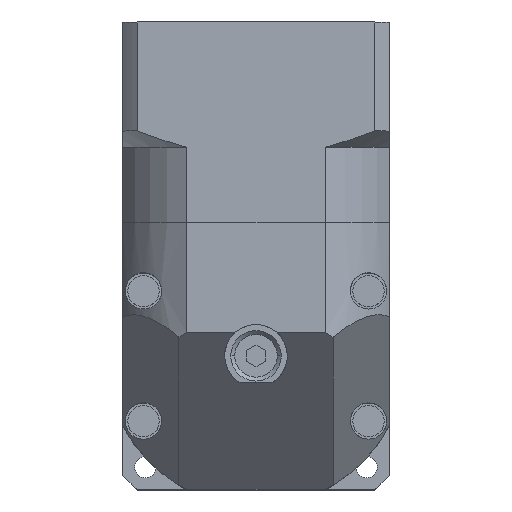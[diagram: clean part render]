
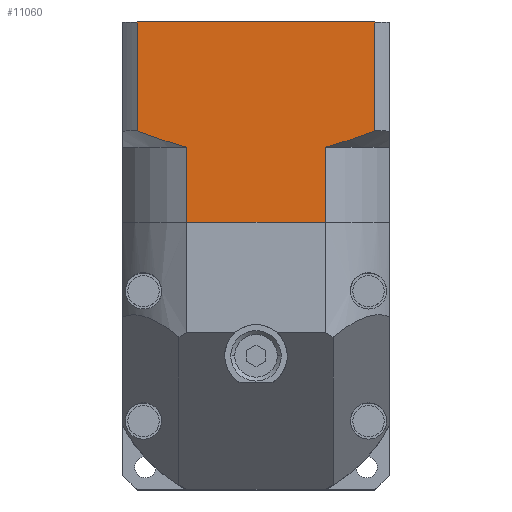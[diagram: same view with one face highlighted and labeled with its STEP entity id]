
A CAD part, top view. The second image highlights one B-rep face of the part: STEP entity #11060.
In plain terms, the highlighted planar face has unit normal (0, 0, 1) as drawn and (0, -1, 0) by its records, which use the part's own axes.
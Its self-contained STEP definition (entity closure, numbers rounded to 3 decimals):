
#34 = B_SPLINE_CURVE_WITH_KNOTS ( 'NONE', 3,
 ( #9931, #10885, #7182, #170 ),
 .UNSPECIFIED., .F., .F.,
 ( 4, 4 ),
 ( 0., 0.008 ),
 .UNSPECIFIED. ) ;
#170 = CARTESIAN_POINT ( 'NONE',  ( 11.059, -21.3, 12. ) ) ;
#273 = VERTEX_POINT ( 'NONE', #9314 ) ;
#278 = CARTESIAN_POINT ( 'NONE',  ( 18.936, -21.3, 32. ) ) ;
#509 = CARTESIAN_POINT ( 'NONE',  ( 18.936, -21.3, 32. ) ) ;
#685 = FACE_OUTER_BOUND ( 'NONE', #3792, .T. ) ;
#1178 = VERTEX_POINT ( 'NONE', #3948 ) ;
#1491 = EDGE_CURVE ( 'NONE', #273, #10501, #7911, .T. ) ;
#1499 = EDGE_CURVE ( 'NONE', #7039, #3910, #34, .T. ) ;
#1550 = ORIENTED_EDGE ( 'NONE', *, *, #1499, .F. ) ;
#1869 = CARTESIAN_POINT ( 'NONE',  ( -18.936, -21.3, 32. ) ) ;
#2223 = CARTESIAN_POINT ( 'NONE',  ( -16.352, -21.3, 13.607 ) ) ;
#2300 = VERTEX_POINT ( 'NONE', #5970 ) ;
#2691 = VERTEX_POINT ( 'NONE', #278 ) ;
#2693 = AXIS2_PLACEMENT_3D ( 'NONE', #6478, #3077, #8347 ) ;
#2824 = CARTESIAN_POINT ( 'NONE',  ( 11.059, -21.3, 0. ) ) ;
#2862 = CARTESIAN_POINT ( 'NONE',  ( -11.059, -21.3, 32. ) ) ;
#3077 = DIRECTION ( 'NONE',  ( 0., 1., 0. ) ) ;
#3644 = LINE ( 'NONE', #8354, #10588 ) ;
#3792 = EDGE_LOOP ( 'NONE', ( #11363, #7958, #9010, #1550, #7639, #9051, #6177, #10185 ) ) ;
#3910 = VERTEX_POINT ( 'NONE', #6954 ) ;
#3948 = CARTESIAN_POINT ( 'NONE',  ( -11.059, -21.3, 12. ) ) ;
#4063 = VECTOR ( 'NONE', #9276, 1000. ) ;
#4313 = LINE ( 'NONE', #6346, #7796 ) ;
#4604 = LINE ( 'NONE', #10152, #4063 ) ;
#4766 = EDGE_CURVE ( 'NONE', #3910, #6720, #4604, .T. ) ;
#5319 = EDGE_CURVE ( 'NONE', #2300, #6720, #3644, .T. ) ;
#5970 = CARTESIAN_POINT ( 'NONE',  ( -11.059, -21.3, 0. ) ) ;
#6177 = ORIENTED_EDGE ( 'NONE', *, *, #1491, .F. ) ;
#6346 = CARTESIAN_POINT ( 'NONE',  ( -18.936, -21.3, 32. ) ) ;
#6368 = VECTOR ( 'NONE', #8070, 1000. ) ;
#6478 = CARTESIAN_POINT ( 'NONE',  ( -18.936, -21.3, 32. ) ) ;
#6663 = DIRECTION ( 'NONE',  ( 0., 0., -1. ) ) ;
#6720 = VERTEX_POINT ( 'NONE', #2824 ) ;
#6954 = CARTESIAN_POINT ( 'NONE',  ( 11.059, -21.3, 12. ) ) ;
#7039 = VERTEX_POINT ( 'NONE', #10467 ) ;
#7091 = EDGE_CURVE ( 'NONE', #2300, #1178, #11399, .T. ) ;
#7182 = CARTESIAN_POINT ( 'NONE',  ( 13.736, -21.3, 12.712 ) ) ;
#7491 = CARTESIAN_POINT ( 'NONE',  ( -11.059, -21.3, 12. ) ) ;
#7528 = CARTESIAN_POINT ( 'NONE',  ( -13.736, -21.3, 12.712 ) ) ;
#7639 = ORIENTED_EDGE ( 'NONE', *, *, #8975, .F. ) ;
#7796 = VECTOR ( 'NONE', #9116, 1000. ) ;
#7911 = LINE ( 'NONE', #1869, #6368 ) ;
#7958 = ORIENTED_EDGE ( 'NONE', *, *, #5319, .T. ) ;
#8021 = VECTOR ( 'NONE', #6663, 1000. ) ;
#8070 = DIRECTION ( 'NONE',  ( 0., 0., 1. ) ) ;
#8298 = LINE ( 'NONE', #509, #8021 ) ;
#8342 = B_SPLINE_CURVE_WITH_KNOTS ( 'NONE', 3,
 ( #7491, #7528, #2223, #9207 ),
 .UNSPECIFIED., .F., .F.,
 ( 4, 4 ),
 ( 0., 0.008 ),
 .UNSPECIFIED. ) ;
#8347 = DIRECTION ( 'NONE',  ( -1., 0., 0. ) ) ;
#8354 = CARTESIAN_POINT ( 'NONE',  ( 0., -21.3, 0. ) ) ;
#8436 = DIRECTION ( 'NONE',  ( 1., 0., 0. ) ) ;
#8787 = VECTOR ( 'NONE', #9919, 1000. ) ;
#8975 = EDGE_CURVE ( 'NONE', #2691, #7039, #8298, .T. ) ;
#9010 = ORIENTED_EDGE ( 'NONE', *, *, #4766, .F. ) ;
#9051 = ORIENTED_EDGE ( 'NONE', *, *, #9365, .F. ) ;
#9116 = DIRECTION ( 'NONE',  ( 1., 0., 0. ) ) ;
#9207 = CARTESIAN_POINT ( 'NONE',  ( -18.936, -21.3, 14.598 ) ) ;
#9276 = DIRECTION ( 'NONE',  ( 0., 0., -1. ) ) ;
#9314 = CARTESIAN_POINT ( 'NONE',  ( -18.936, -21.3, 14.598 ) ) ;
#9329 = PLANE ( 'NONE',  #2693 ) ;
#9365 = EDGE_CURVE ( 'NONE', #10501, #2691, #4313, .T. ) ;
#9463 = CARTESIAN_POINT ( 'NONE',  ( -18.936, -21.3, 32. ) ) ;
#9919 = DIRECTION ( 'NONE',  ( 0., 0., 1. ) ) ;
#9931 = CARTESIAN_POINT ( 'NONE',  ( 18.936, -21.3, 14.598 ) ) ;
#10152 = CARTESIAN_POINT ( 'NONE',  ( 11.059, -21.3, 0. ) ) ;
#10185 = ORIENTED_EDGE ( 'NONE', *, *, #11028, .F. ) ;
#10467 = CARTESIAN_POINT ( 'NONE',  ( 18.936, -21.3, 14.598 ) ) ;
#10501 = VERTEX_POINT ( 'NONE', #9463 ) ;
#10588 = VECTOR ( 'NONE', #8436, 1000. ) ;
#10885 = CARTESIAN_POINT ( 'NONE',  ( 16.352, -21.3, 13.607 ) ) ;
#11028 = EDGE_CURVE ( 'NONE', #1178, #273, #8342, .T. ) ;
#11060 = ADVANCED_FACE ( 'NONE', ( #685 ), #9329, .F. ) ;
#11363 = ORIENTED_EDGE ( 'NONE', *, *, #7091, .F. ) ;
#11399 = LINE ( 'NONE', #2862, #8787 ) ;
